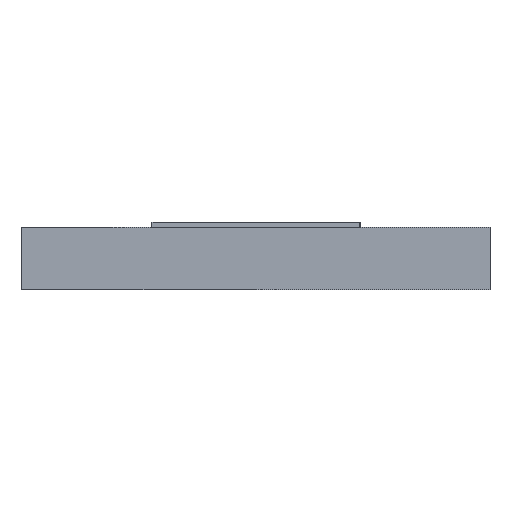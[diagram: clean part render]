
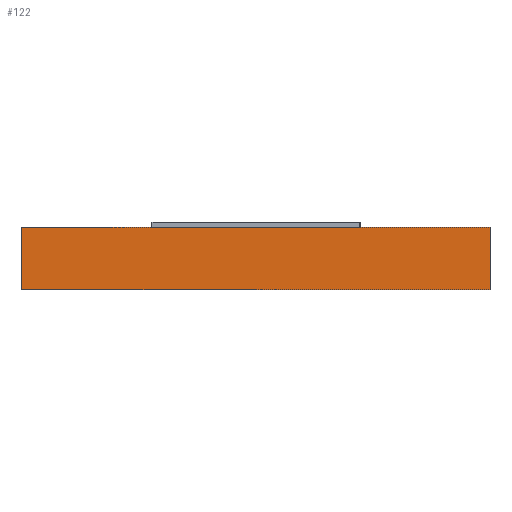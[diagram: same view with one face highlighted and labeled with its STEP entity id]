
A CAD part, left-side view. The second image highlights one B-rep face of the part: STEP entity #122.
In plain terms, the highlighted planar face has unit normal (-1, 0, 0).
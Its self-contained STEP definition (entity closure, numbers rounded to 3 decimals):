
#122=ADVANCED_FACE('',(#271),#273,.T.);
#271=FACE_BOUND('',#272,.T.);
#272=EDGE_LOOP('',(#557,#558,#559,#560,#561,#562));
#273=PLANE('',#274);
#274=AXIS2_PLACEMENT_3D('',#275,#276,#277);
#275=CARTESIAN_POINT('',(-4.5,4.5,0.));
#276=DIRECTION('',(-1.,0.,0.));
#277=DIRECTION('',(0.,-1.,0.));
#557=ORIENTED_EDGE('',*,*,#756,.F.);
#558=ORIENTED_EDGE('',*,*,#767,.F.);
#559=ORIENTED_EDGE('',*,*,#768,.F.);
#560=ORIENTED_EDGE('',*,*,#769,.T.);
#561=ORIENTED_EDGE('',*,*,#770,.T.);
#562=ORIENTED_EDGE('',*,*,#759,.F.);
#756=EDGE_CURVE('',#903,#897,#912,.T.);
#759=EDGE_CURVE('',#897,#915,#916,.T.);
#767=EDGE_CURVE('',#929,#903,#931,.T.);
#768=EDGE_CURVE('',#932,#929,#933,.T.);
#769=EDGE_CURVE('',#932,#934,#935,.T.);
#770=EDGE_CURVE('',#934,#915,#936,.T.);
#897=VERTEX_POINT('',#1026);
#903=VERTEX_POINT('',#1038);
#912=LINE('',#1059,#1060);
#915=VERTEX_POINT('',#1068);
#916=LINE('',#1069,#1070);
#929=VERTEX_POINT('',#1096);
#931=LINE('',#1100,#1101);
#932=VERTEX_POINT('',#1103);
#933=LINE('',#1104,#1105);
#934=VERTEX_POINT('',#1107);
#935=LINE('',#1108,#1109);
#936=LINE('',#1111,#1112);
#1026=CARTESIAN_POINT('',(-4.5,-2.,1.2));
#1038=CARTESIAN_POINT('',(-4.5,2.,1.2));
#1059=CARTESIAN_POINT('',(-4.5,2.,1.2));
#1060=VECTOR('',#1061,1.);
#1061=DIRECTION('',(0.,-1.,0.));
#1068=CARTESIAN_POINT('',(-4.5,-4.5,1.2));
#1069=CARTESIAN_POINT('',(-4.5,-2.,1.2));
#1070=VECTOR('',#1071,1.);
#1071=DIRECTION('',(0.,-1.,0.));
#1096=CARTESIAN_POINT('',(-4.5,4.5,1.2));
#1100=CARTESIAN_POINT('',(-4.5,4.5,1.2));
#1101=VECTOR('',#1102,1.);
#1102=DIRECTION('',(0.,-1.,0.));
#1103=CARTESIAN_POINT('',(-4.5,4.5,0.));
#1104=CARTESIAN_POINT('',(-4.5,4.5,0.));
#1105=VECTOR('',#1106,1.);
#1106=DIRECTION('',(0.,0.,1.));
#1107=CARTESIAN_POINT('',(-4.5,-4.5,0.));
#1108=CARTESIAN_POINT('',(-4.5,4.5,0.));
#1109=VECTOR('',#1110,1.);
#1110=DIRECTION('',(0.,-1.,0.));
#1111=CARTESIAN_POINT('',(-4.5,-4.5,0.));
#1112=VECTOR('',#1113,1.);
#1113=DIRECTION('',(0.,0.,1.));
